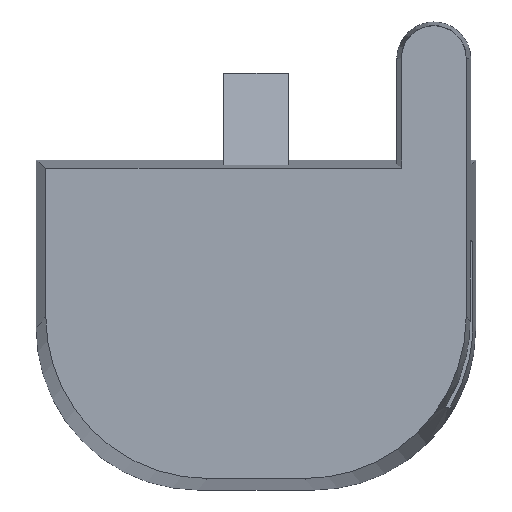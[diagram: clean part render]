
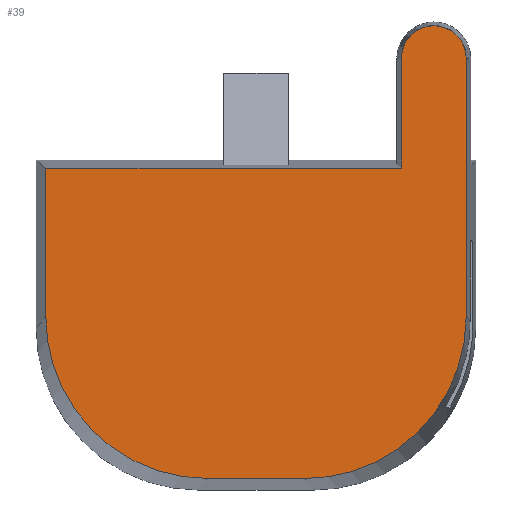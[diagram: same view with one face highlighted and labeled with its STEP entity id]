
A CAD part, top view. The second image highlights one B-rep face of the part: STEP entity #39.
In plain terms, the highlighted planar face has unit normal (0, 0, 1).
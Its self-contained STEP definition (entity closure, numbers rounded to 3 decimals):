
#39=ADVANCED_FACE('',(#78),#60,.T.);
#60=PLANE('',#421);
#78=FACE_OUTER_BOUND('',#98,.T.);
#98=EDGE_LOOP('',(#129,#130,#131,#132,#133,#134,#135,#136));
#120=ELLIPSE('',#419,2.5,2.5);
#121=ELLIPSE('',#420,2.5,2.5);
#127=CIRCLE('',#418,0.5);
#129=ORIENTED_EDGE('',*,*,#273,.F.);
#130=ORIENTED_EDGE('',*,*,#274,.F.);
#131=ORIENTED_EDGE('',*,*,#275,.F.);
#132=ORIENTED_EDGE('',*,*,#276,.T.);
#133=ORIENTED_EDGE('',*,*,#277,.F.);
#134=ORIENTED_EDGE('',*,*,#278,.F.);
#135=ORIENTED_EDGE('',*,*,#279,.F.);
#136=ORIENTED_EDGE('',*,*,#280,.F.);
#237=VERTEX_POINT('',#557);
#238=VERTEX_POINT('',#558);
#239=VERTEX_POINT('',#560);
#240=VERTEX_POINT('',#562);
#241=VERTEX_POINT('',#564);
#242=VERTEX_POINT('',#566);
#243=VERTEX_POINT('',#568);
#244=VERTEX_POINT('',#570);
#273=EDGE_CURVE('',#237,#238,#327,.T.);
#274=EDGE_CURVE('',#239,#237,#127,.T.);
#275=EDGE_CURVE('',#240,#239,#328,.T.);
#276=EDGE_CURVE('',#240,#241,#329,.T.);
#277=EDGE_CURVE('',#242,#241,#330,.T.);
#278=EDGE_CURVE('',#243,#242,#120,.T.);
#279=EDGE_CURVE('',#244,#243,#331,.T.);
#280=EDGE_CURVE('',#238,#244,#121,.T.);
#327=LINE('',#556,#372);
#328=LINE('',#561,#373);
#329=LINE('',#563,#374);
#330=LINE('',#565,#375);
#331=LINE('',#569,#376);
#372=VECTOR('',#450,1.);
#373=VECTOR('',#453,1.);
#374=VECTOR('',#454,1.);
#375=VECTOR('',#455,1.);
#376=VECTOR('',#458,1.);
#418=AXIS2_PLACEMENT_3D('',#559,#451,#452);
#419=AXIS2_PLACEMENT_3D('',#567,#456,#457);
#420=AXIS2_PLACEMENT_3D('',#571,#459,#460);
#421=AXIS2_PLACEMENT_3D('',#572,#461,#462);
#450=DIRECTION('',(0.,-1.,0.));
#451=DIRECTION('',(0.,0.,-1.));
#452=DIRECTION('',(1.,0.,0.));
#453=DIRECTION('',(0.,1.,0.));
#454=DIRECTION('',(-1.,0.,0.));
#455=DIRECTION('',(0.,1.,0.));
#456=DIRECTION('',(0.,0.,-1.));
#457=DIRECTION('',(-0.707,-0.707,0.));
#458=DIRECTION('',(-1.,0.,0.));
#459=DIRECTION('',(0.,0.,-1.));
#460=DIRECTION('',(0.707,-0.707,0.));
#461=DIRECTION('',(0.,0.,1.));
#462=DIRECTION('',(0.,1.,0.));
#556=CARTESIAN_POINT('',(3.25,4.1,9.127));
#557=CARTESIAN_POINT('',(3.25,4.1,9.127));
#558=CARTESIAN_POINT('',(3.25,0.1,9.127));
#559=CARTESIAN_POINT('',(2.75,4.1,9.127));
#560=CARTESIAN_POINT('',(2.25,4.1,9.127));
#561=CARTESIAN_POINT('',(2.25,4.1,9.127));
#562=CARTESIAN_POINT('',(2.25,2.4,9.127));
#563=CARTESIAN_POINT('',(2.75,2.4,9.127));
#564=CARTESIAN_POINT('',(-3.25,2.4,9.127));
#565=CARTESIAN_POINT('',(-3.25,4.1,9.127));
#566=CARTESIAN_POINT('',(-3.25,0.1,9.127));
#567=CARTESIAN_POINT('',(-0.75,0.1,9.127));
#568=CARTESIAN_POINT('',(-0.75,-2.4,9.127));
#569=CARTESIAN_POINT('',(2.75,-2.4,9.127));
#570=CARTESIAN_POINT('',(0.75,-2.4,9.127));
#571=CARTESIAN_POINT('',(0.75,0.1,9.127));
#572=CARTESIAN_POINT('',(2.75,4.1,9.127));
